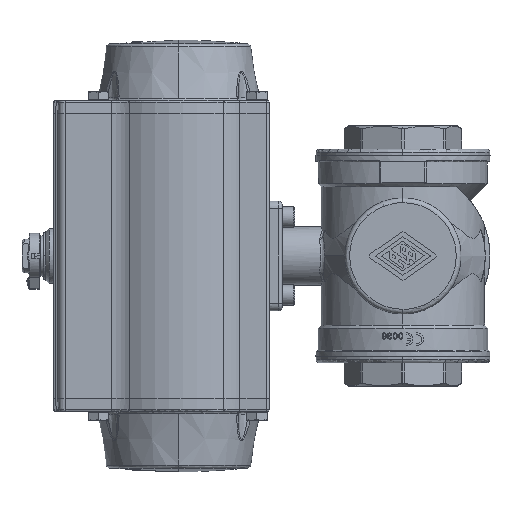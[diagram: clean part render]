
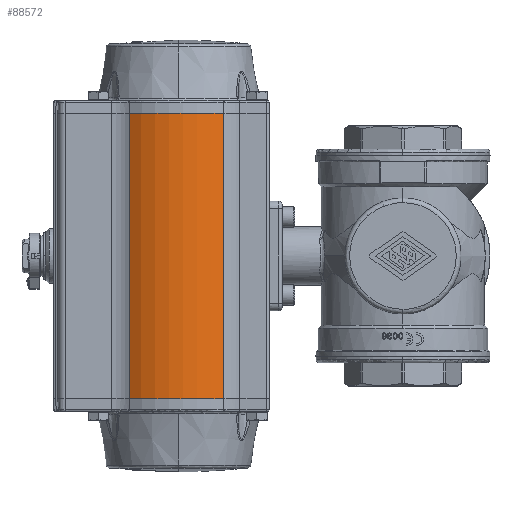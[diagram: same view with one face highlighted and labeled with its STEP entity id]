
A CAD part, left-side view. The second image highlights one B-rep face of the part: STEP entity #88572.
In plain terms, the highlighted cylindrical face has radius 55 mm (diameter 110 mm), a partial arc.
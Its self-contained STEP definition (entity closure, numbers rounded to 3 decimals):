
#434 = LINE ( 'NONE', #78745, #76355 ) ;
#2834 = ORIENTED_EDGE ( 'NONE', *, *, #83330, .F. ) ;
#4422 = VERTEX_POINT ( 'NONE', #63170 ) ;
#5800 = LINE ( 'NONE', #23587, #36525 ) ;
#7962 = AXIS2_PLACEMENT_3D ( 'NONE', #58025, #130133, #68382 ) ;
#11033 = CARTESIAN_POINT ( 'NONE',  ( 0., 131.854, -91. ) ) ;
#16117 = DIRECTION ( 'NONE',  ( 0., 0., -1. ) ) ;
#17309 = EDGE_CURVE ( 'NONE', #81387, #77020, #118884, .T. ) ;
#23587 = CARTESIAN_POINT ( 'NONE',  ( -45.1, 163.334, 0. ) ) ;
#27392 = ORIENTED_EDGE ( 'NONE', *, *, #131540, .F. ) ;
#30712 = CYLINDRICAL_SURFACE ( 'NONE', #86272, 55. ) ;
#32509 = ORIENTED_EDGE ( 'NONE', *, *, #85133, .F. ) ;
#34008 = DIRECTION ( 'NONE',  ( 0., 0., 1. ) ) ;
#36525 = VECTOR ( 'NONE', #34008, 1000. ) ;
#37286 = AXIS2_PLACEMENT_3D ( 'NONE', #77981, #16117, #88380 ) ;
#57493 = CARTESIAN_POINT ( 'NONE',  ( -46.933, 103.179, 91. ) ) ;
#58025 = CARTESIAN_POINT ( 'NONE',  ( 0., 131.854, -91. ) ) ;
#63170 = CARTESIAN_POINT ( 'NONE',  ( -45.1, 163.334, -91. ) ) ;
#64776 = CARTESIAN_POINT ( 'NONE',  ( -45.1, 163.334, 91. ) ) ;
#67934 = FACE_OUTER_BOUND ( 'NONE', #69517, .T. ) ;
#68382 = DIRECTION ( 'NONE',  ( 1., 0., 0. ) ) ;
#68679 = CARTESIAN_POINT ( 'NONE',  ( -46.933, 103.179, -91. ) ) ;
#69517 = EDGE_LOOP ( 'NONE', ( #27392, #2834, #32509, #88209 ) ) ;
#76355 = VECTOR ( 'NONE', #79634, 1000. ) ;
#77020 = VERTEX_POINT ( 'NONE', #64776 ) ;
#77981 = CARTESIAN_POINT ( 'NONE',  ( 0., 131.854, 91. ) ) ;
#78716 = VERTEX_POINT ( 'NONE', #68679 ) ;
#78745 = CARTESIAN_POINT ( 'NONE',  ( -46.933, 103.179, 0. ) ) ;
#79634 = DIRECTION ( 'NONE',  ( 0., 0., -1. ) ) ;
#81387 = VERTEX_POINT ( 'NONE', #57493 ) ;
#83330 = EDGE_CURVE ( 'NONE', #78716, #4422, #117119, .T. ) ;
#85133 = EDGE_CURVE ( 'NONE', #81387, #78716, #434, .T. ) ;
#86272 = AXIS2_PLACEMENT_3D ( 'NONE', #11033, #113932, #104926 ) ;
#88209 = ORIENTED_EDGE ( 'NONE', *, *, #17309, .T. ) ;
#88380 = DIRECTION ( 'NONE',  ( -1., 0., 0. ) ) ;
#88572 = ADVANCED_FACE ( 'NONE', ( #67934 ), #30712, .T. ) ;
#104926 = DIRECTION ( 'NONE',  ( 1., 0., 0. ) ) ;
#113932 = DIRECTION ( 'NONE',  ( 0., 0., 1. ) ) ;
#117119 = CIRCLE ( 'NONE', #7962, 55. ) ;
#118884 = CIRCLE ( 'NONE', #37286, 55. ) ;
#130133 = DIRECTION ( 'NONE',  ( 0., 0., -1. ) ) ;
#131540 = EDGE_CURVE ( 'NONE', #4422, #77020, #5800, .T. ) ;
